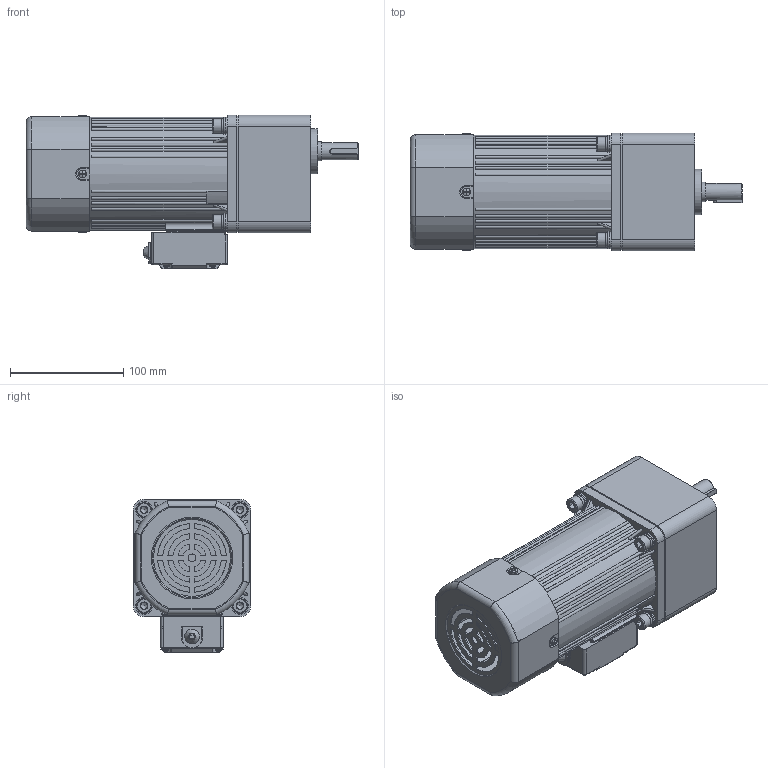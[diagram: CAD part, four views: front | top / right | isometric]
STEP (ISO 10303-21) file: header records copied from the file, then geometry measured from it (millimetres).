
FILE_DESCRIPTION(/* description */ (''),/* implementation_level */ '2;1');
FILE_NAME(/* name */ '6RK160-200GUC·TMF_6GU3-750K-C·15L长款接线盒.stp',/* time_stamp */ '2025-04-13T16:53:16+08:00',/* author */ (''),/* organization */ (''),/* preprocessor_version */ 'ST-DEVELOPER v18.102',/* originating_system */ 'SIEMENS PLM Software NX 2027',/* authorisation */ '');
FILE_SCHEMA (('AP203_CONFIGURATION_CONTROLLED_3D_DESIGN_OF_MECHANICAL_PARTS_AND_ASSEMBLIES_MIM_LF { 1 0 10303 403 2 1 2}'));
Length unit declared in the file: millimetre
Products named in the file (1): 6RK160-200CC·MF_6GU3-750K-C·15L_stp_M066263C6523m
ugf
Bounding box: 293.5 x 104.06 x 136.03 mm (x, y, z)
Volume: 1002051.1 mm3; surface area: 302020.6 mm2
Topology: 22 solids, 23 shells, 1737 faces, 4547 edges, 2915 vertices
Faces by surface type: plane 755, cylinder 544, bspline 181, cone 118, torus 103, sphere 36
Full cylindrical faces by diameter (mm): 2.2 x2, 2.9 x4, 3 x2, 3.3 x4, 3.5 x6, 3.6 x4, 4 x5, 4.2 x1, 4.8 x1, 5.6 x4, 6 x2, 6.8 x16, 7 x2, 7.76 x4, 8 x1, 8.4 x4, 8.5 x4, 9 x4, 10 x2, 13 x5, 14 x5, 15 x6, 15.5 x1, 17 x1, 17.3 x1, 19 x1, 27 x1, 28 x1, 30 x2, 35 x1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
Entity records: 53821 total; most frequent: CARTESIAN_POINT 12912, ORIENTED_EDGE 8370, DIRECTION 8129, EDGE_CURVE 4185, AXIS2_PLACEMENT_3D 3131, VERTEX_POINT 2792, EDGE_LOOP 2120, LINE 1867
